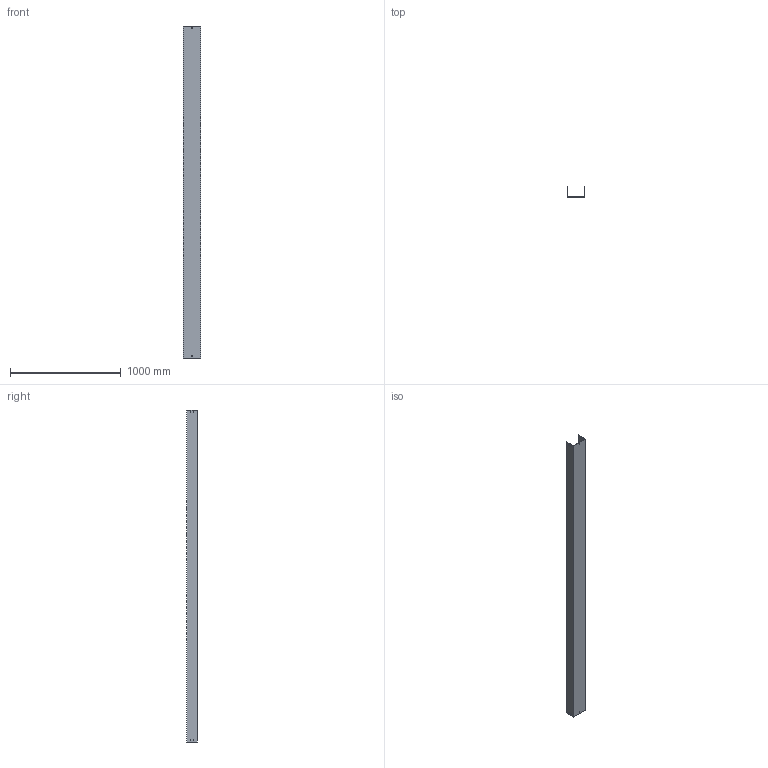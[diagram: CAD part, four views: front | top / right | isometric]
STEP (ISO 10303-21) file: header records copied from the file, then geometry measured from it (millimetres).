
FILE_DESCRIPTION (( 'STEP AP214' ), '1' );
FILE_NAME ('03B3I150.step', '2025-02-21T10:27:22', ( '' ), ( '' ), 'SwSTEP 2.0', 'SolidWorks 2023', '' );
FILE_SCHEMA (( 'AUTOMOTIVE_DESIGN' ));
Length unit declared in the file: millimetre
Products named in the file (1): 03B3I150
Bounding box: 154 x 92.5 x 3000 mm (x, y, z)
Volume: 3483630.5 mm3; surface area: 2015139 mm2
Topology: 1 solids, 1 shells, 50 faces, 144 edges, 96 vertices
Faces by surface type: plane 50
Entity records: 1671 total; most frequent: CARTESIAN_POINT 291, ORIENTED_EDGE 288, DIRECTION 246, VECTOR 144, EDGE_CURVE 144, LINE 144, VERTEX_POINT 96, EDGE_LOOP 70
